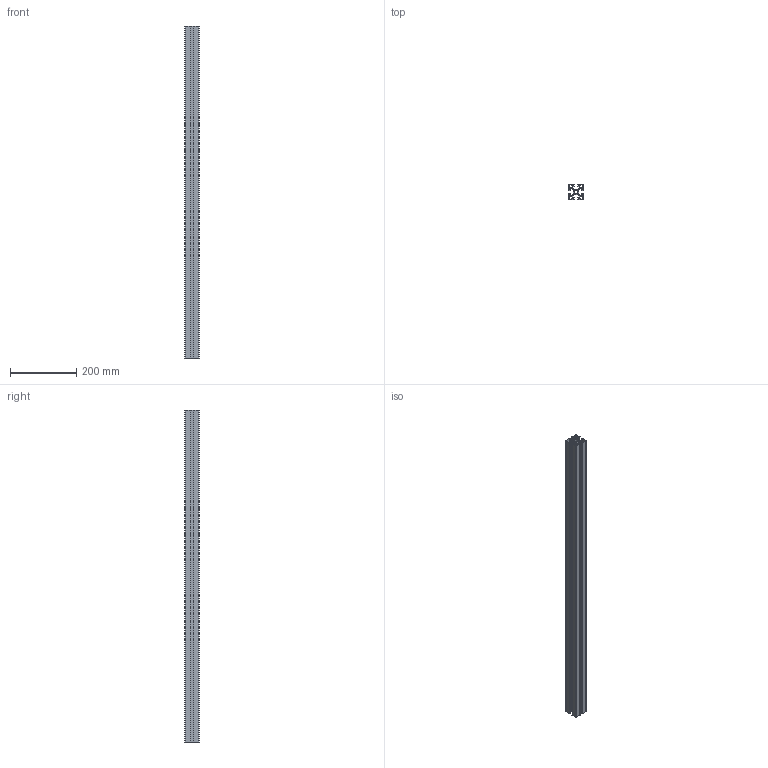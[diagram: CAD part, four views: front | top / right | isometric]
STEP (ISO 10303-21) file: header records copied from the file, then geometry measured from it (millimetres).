
FILE_DESCRIPTION (( 'STEP AP214' ), '1' );
FILE_NAME ('555L Êîíñòðóêöèîííûé ïðîôèëü 45õ45L.STEP', '2014-12-19T10:22:58', ( 'XTreme.ws' ), ( 'XTreme.ws' ), 'SwSTEP 2.0', 'SolidWorks 2014', '' );
FILE_SCHEMA (( 'AUTOMOTIVE_DESIGN' ));
Length unit declared in the file: millimetre
Products named in the file (2): 555L Êîíñòðóêöèîííûé ïðîôèëü 45õ45L
Bounding box: 45 x 45 x 1000 mm (x, y, z)
Volume: 575396 mm3; surface area: 594524.9 mm2
Topology: 1 solids, 1 shells, 142 faces, 420 edges, 280 vertices
Faces by surface type: cylinder 72, plane 70
Entity records: 4857 total; most frequent: DIRECTION 852, CARTESIAN_POINT 844, ORIENTED_EDGE 840, EDGE_CURVE 420, AXIS2_PLACEMENT_3D 288, VERTEX_POINT 280, LINE 276, VECTOR 276
